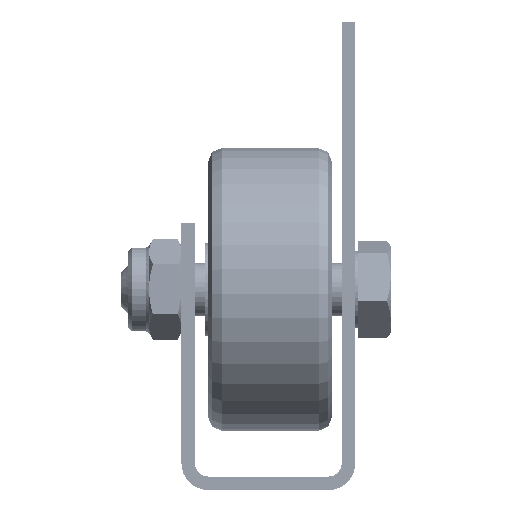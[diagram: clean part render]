
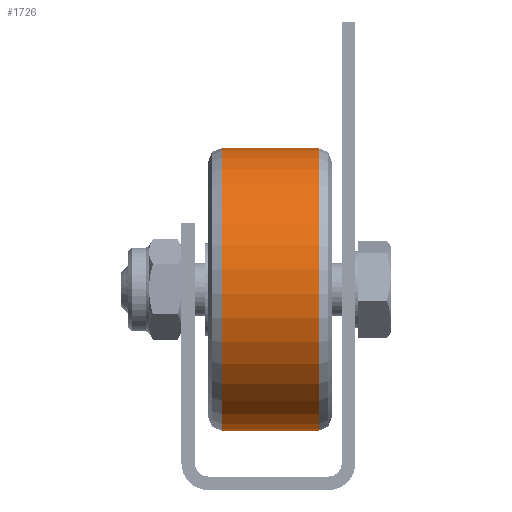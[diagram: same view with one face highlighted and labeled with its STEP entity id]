
A CAD part, front view. The second image highlights one B-rep face of the part: STEP entity #1726.
In plain terms, the highlighted cylindrical face has radius 21.15 mm (diameter 42.3 mm), a full revolution.
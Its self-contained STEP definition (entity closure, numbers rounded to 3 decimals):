
#1726 = ADVANCED_FACE( '', ( #3259, #3260 ), #3261, .T. );
#3259 = FACE_OUTER_BOUND( '', #4922, .T. );
#3260 = FACE_OUTER_BOUND( '', #4923, .T. );
#3261 = CYLINDRICAL_SURFACE( '', #4924, 21.15 );
#4922 = EDGE_LOOP( '', ( #6907 ) );
#4923 = EDGE_LOOP( '', ( #6908 ) );
#4924 = AXIS2_PLACEMENT_3D( '', #6909, #6910, #6911 );
#6907 = ORIENTED_EDGE( '', *, *, #9097, .T. );
#6908 = ORIENTED_EDGE( '', *, *, #9385, .T. );
#6909 = CARTESIAN_POINT( '', ( 0., -9.25, 0. ) );
#6910 = DIRECTION( '', ( 0., -1., 0. ) );
#6911 = DIRECTION( '', ( 0., 0., 1. ) );
#9097 = EDGE_CURVE( '', #10373, #10373, #10374, .F. );
#9385 = EDGE_CURVE( '', #10899, #10899, #10900, .T. );
#10373 = VERTEX_POINT( '', #12321 );
#10374 = CIRCLE( '', #12322, 21.15 );
#10899 = VERTEX_POINT( '', #12942 );
#10900 = CIRCLE( '', #12943, 21.15 );
#12321 = CARTESIAN_POINT( '', ( 0., 7.25, 21.15 ) );
#12322 = AXIS2_PLACEMENT_3D( '', #14502, #14503, #14504 );
#12942 = CARTESIAN_POINT( '', ( 0., -7.25, 21.15 ) );
#12943 = AXIS2_PLACEMENT_3D( '', #15157, #15158, #15159 );
#14502 = CARTESIAN_POINT( '', ( 0., 7.25, 0. ) );
#14503 = DIRECTION( '', ( 0., 1., 0. ) );
#14504 = DIRECTION( '', ( 0., 0., 1. ) );
#15157 = CARTESIAN_POINT( '', ( 0., -7.25, 0. ) );
#15158 = DIRECTION( '', ( 0., 1., 0. ) );
#15159 = DIRECTION( '', ( 0., 0., 1. ) );
